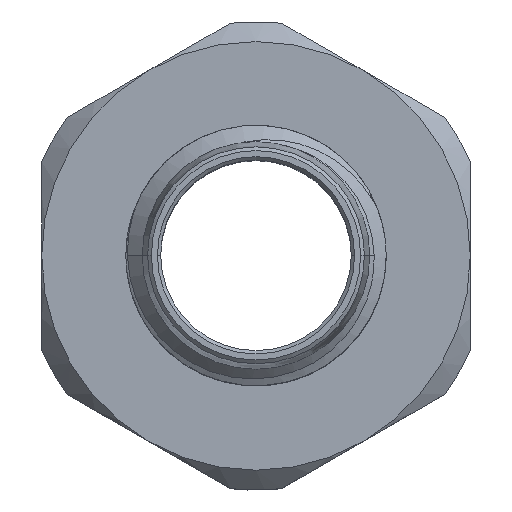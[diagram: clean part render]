
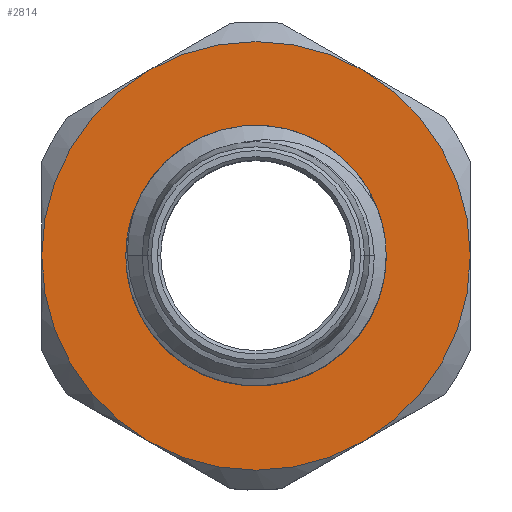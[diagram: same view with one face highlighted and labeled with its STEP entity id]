
A CAD part, top view. The second image highlights one B-rep face of the part: STEP entity #2814.
In plain terms, the highlighted planar face has unit normal (0, 0, 1).
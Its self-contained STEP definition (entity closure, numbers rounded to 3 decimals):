
#147=CARTESIAN_POINT('',(0.,0.,-10.2));
#148=DIRECTION('',(0.,0.,1.));
#149=DIRECTION('',(1.,0.,0.));
#150=AXIS2_PLACEMENT_3D('',#147,#148,#149);
#152=CARTESIAN_POINT('',(0.,0.,-10.2));
#153=DIRECTION('',(0.,0.,1.));
#154=DIRECTION('',(0.5,-0.866,0.));
#155=AXIS2_PLACEMENT_3D('',#152,#153,#154);
#157=CARTESIAN_POINT('',(0.,0.,-10.2));
#158=DIRECTION('',(0.,0.,1.));
#159=DIRECTION('',(-0.5,-0.866,0.));
#160=AXIS2_PLACEMENT_3D('',#157,#158,#159);
#162=CARTESIAN_POINT('',(0.,0.,-10.2));
#163=DIRECTION('',(0.,0.,1.));
#164=DIRECTION('',(-1.,0.,0.));
#165=AXIS2_PLACEMENT_3D('',#162,#163,#164);
#167=CARTESIAN_POINT('',(0.,0.,-10.2));
#168=DIRECTION('',(0.,0.,1.));
#169=DIRECTION('',(-0.5,0.866,0.));
#170=AXIS2_PLACEMENT_3D('',#167,#168,#169);
#172=CARTESIAN_POINT('',(0.,0.,-10.2));
#173=DIRECTION('',(0.,0.,1.));
#174=DIRECTION('',(0.5,0.866,0.));
#175=AXIS2_PLACEMENT_3D('',#172,#173,#174);
#177=CARTESIAN_POINT('',(0.,0.,-10.2));
#178=DIRECTION('',(0.,0.,-1.));
#179=DIRECTION('',(-1.,0.,0.));
#180=AXIS2_PLACEMENT_3D('',#177,#178,#179);
#182=CARTESIAN_POINT('',(0.,0.,-10.2));
#183=DIRECTION('',(0.,0.,-1.));
#184=DIRECTION('',(1.,0.,0.));
#185=AXIS2_PLACEMENT_3D('',#182,#183,#184);
#201=CARTESIAN_POINT('',(3.25,5.629,-10.2));
#275=CARTESIAN_POINT('',(-3.25,-5.629,-10.2));
#2560=CARTESIAN_POINT('',(-3.275,0.,-10.2));
#2561=CARTESIAN_POINT('',(3.275,0.,-10.2));
#2562=VERTEX_POINT('',#2560);
#2563=VERTEX_POINT('',#2561);
#2565=VERTEX_POINT('',#201);
#2566=CARTESIAN_POINT('',(-3.25,5.629,-10.2));
#2567=VERTEX_POINT('',#2566);
#2579=VERTEX_POINT('',#275);
#2599=CARTESIAN_POINT('',(-6.5,0.,-10.2));
#2600=VERTEX_POINT('',#2599);
#2601=CARTESIAN_POINT('',(3.25,-5.629,-10.2));
#2602=CARTESIAN_POINT('',(6.5,0.,-10.2));
#2603=VERTEX_POINT('',#2601);
#2604=VERTEX_POINT('',#2602);
#2790=CARTESIAN_POINT('',(0.,3.275,-10.2));
#2791=DIRECTION('',(0.,0.,-1.));
#2792=DIRECTION('',(-1.,0.,0.));
#2793=AXIS2_PLACEMENT_3D('',#2790,#2791,#2792);
#2794=PLANE('',#2793);
#2796=ORIENTED_EDGE('',*,*,#2795,.F.);
#2798=ORIENTED_EDGE('',*,*,#2797,.F.);
#2800=ORIENTED_EDGE('',*,*,#2799,.F.);
#2802=ORIENTED_EDGE('',*,*,#2801,.F.);
#2804=ORIENTED_EDGE('',*,*,#2803,.F.);
#2806=ORIENTED_EDGE('',*,*,#2805,.F.);
#2807=EDGE_LOOP('',(#2796,#2798,#2800,#2802,#2804,#2806));
#2808=FACE_OUTER_BOUND('',#2807,.F.);
#2809=ORIENTED_EDGE('',*,*,#2779,.F.);
#2811=ORIENTED_EDGE('',*,*,#2810,.F.);
#2812=EDGE_LOOP('',(#2809,#2811));
#2813=FACE_BOUND('',#2812,.F.);
#2814=ADVANCED_FACE('',(#2808,#2813),#2794,.F.);
#151=CIRCLE('',#150,6.5);
#156=CIRCLE('',#155,6.5);
#161=CIRCLE('',#160,6.5);
#166=CIRCLE('',#165,6.5);
#171=CIRCLE('',#170,6.5);
#176=CIRCLE('',#175,6.5);
#181=CIRCLE('',#180,3.275);
#186=CIRCLE('',#185,3.275);
#2779=EDGE_CURVE('',#2562,#2563,#181,.T.);
#2795=EDGE_CURVE('',#2604,#2565,#151,.T.);
#2797=EDGE_CURVE('',#2603,#2604,#156,.T.);
#2799=EDGE_CURVE('',#2579,#2603,#161,.T.);
#2801=EDGE_CURVE('',#2600,#2579,#166,.T.);
#2803=EDGE_CURVE('',#2567,#2600,#171,.T.);
#2805=EDGE_CURVE('',#2565,#2567,#176,.T.);
#2810=EDGE_CURVE('',#2563,#2562,#186,.T.);
